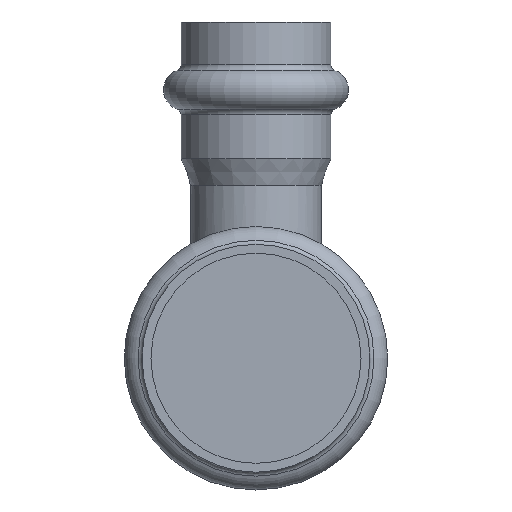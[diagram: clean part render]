
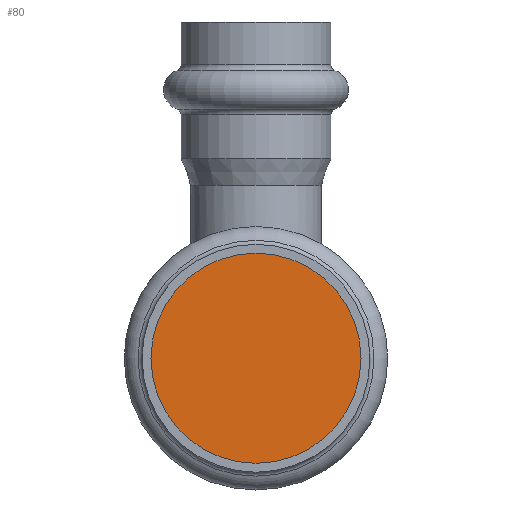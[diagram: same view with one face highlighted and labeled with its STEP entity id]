
A CAD part, front view. The second image highlights one B-rep face of the part: STEP entity #80.
In plain terms, the highlighted planar face has unit normal (0, -1, 0).
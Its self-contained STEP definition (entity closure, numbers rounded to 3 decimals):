
#80=ADVANCED_FACE('',(#325),#327,.T.);
#325=FACE_BOUND('',#326,.T.);
#326=EDGE_LOOP('',(#395));
#327=PLANE('',#328);
#328=AXIS2_PLACEMENT_3D('',#329,#330,#331);
#329=CARTESIAN_POINT('',(0.,-48.743,0.));
#330=DIRECTION('',(0.,-1.,0.));
#331=DIRECTION('',(0.,0.,-1.));
#395=ORIENTED_EDGE('',*,*,#424,.T.);
#424=EDGE_CURVE('',#480,#480,#481,.F.);
#480=VERTEX_POINT('',#849);
#481=CIRCLE('',#850,17.65);
#849=CARTESIAN_POINT('',(0.,-48.743,17.65));
#850=AXIS2_PLACEMENT_3D('',#851,#852,#853);
#851=CARTESIAN_POINT('',(0.,-48.743,0.));
#852=DIRECTION('',(0.,1.,0.));
#853=DIRECTION('',(0.,0.,1.));
